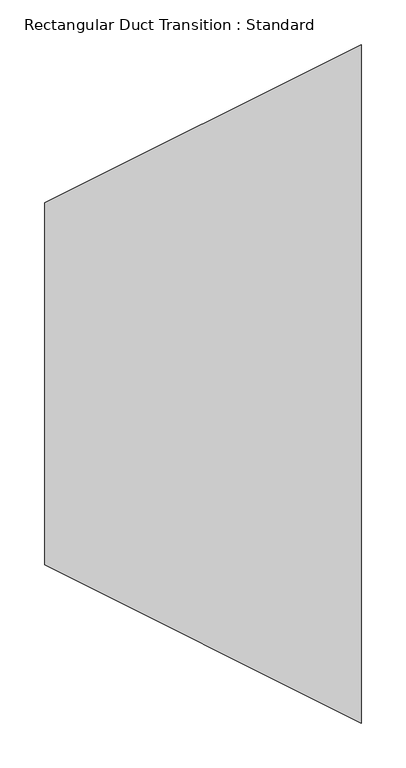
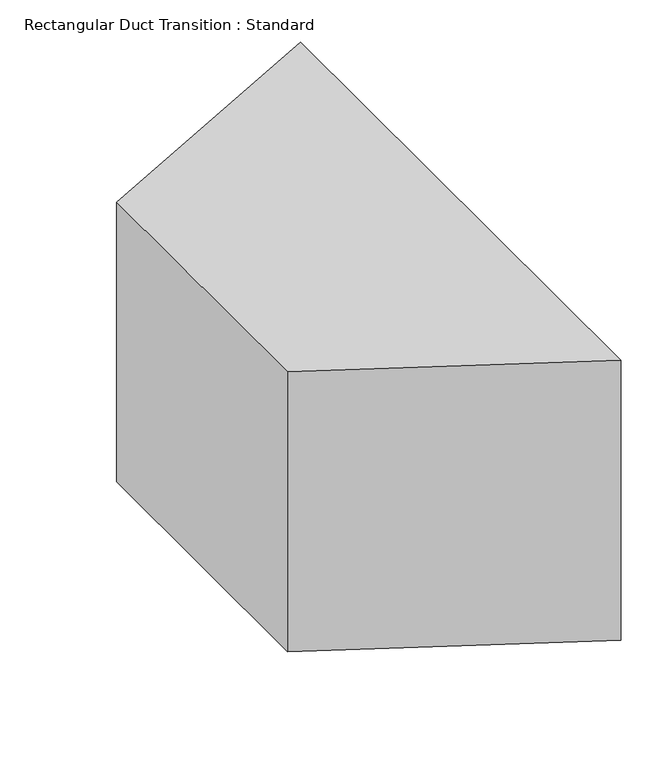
"""IFC4 building model written with IfcOpenShell, lengths in millimetres: duct fitting geometry, Rectangular Duct Transition : Standard."""

from ifc_helpers import new_model, si_unit, frame, origin, place, context, project, spatial, polyline, outline, extrude, source, transform, mapped, element, save


def rectangular_duct_transition_standard_2ff6c989(model_context):
    return source(origin(), model_context, "Body", "SweptSolid", [
        extrude(outline(polyline([(0.0, -203.2), (0.0, 203.2), (355.6, 381.0), (355.6, -381.0), (0.0, -203.2)])), frame((0.0, 0.0, -203.2), z_axis=(0.0, 0.0, 1.0), x_axis=(1.0, 0.0, 0.0)), (0.0, 0.0, 1.0), 406.4),
        extrude(outline(polyline([(0.0, -203.2), (0.0, 203.2), (355.6, 381.0), (355.6, -381.0), (0.0, -203.2)])), frame((0.0, 0.0, -203.2), z_axis=(0.0, 0.0, 1.0), x_axis=(1.0, 0.0, 0.0)), (0.0, 0.0, 1.0), 406.4),
        extrude(outline(polyline([(0.0, -203.2), (0.0, 203.2), (355.6, 381.0), (355.6, -381.0), (0.0, -203.2)])), frame((0.0, 0.0, -203.2), z_axis=(0.0, 0.0, 1.0), x_axis=(1.0, 0.0, 0.0)), (0.0, 0.0, 1.0), 406.4),
    ])


if __name__ == "__main__":
    model = new_model("IFC4")
    model_context = context("Model", 3, world=origin())
    ifc_project = project(units=[si_unit("LENGTHUNIT", "METRE", prefix="MILLI")], contexts=[model_context])
    site = spatial("IfcSite", under=ifc_project)
    building = spatial("IfcBuilding", under=site)
    placement = place(None, origin())
    rectangular_duct_transition_standard_shape = rectangular_duct_transition_standard_2ff6c989(model_context)
    element("IfcDuctFitting", 1, ObjectType="Rectangular Duct Transition : Standard", at=placement, inside=building, context=model_context, shape_type="MappedRepresentation", body=[
        mapped(rectangular_duct_transition_standard_shape, transform((0.0, 0.0, 0.0), x_axis=(1.0, 0.0, 0.0), y_axis=(0.0, 1.0, 0.0), z_axis=(0.0, 0.0, 1.0))),
    ])
    save(model, "model.ifc")
